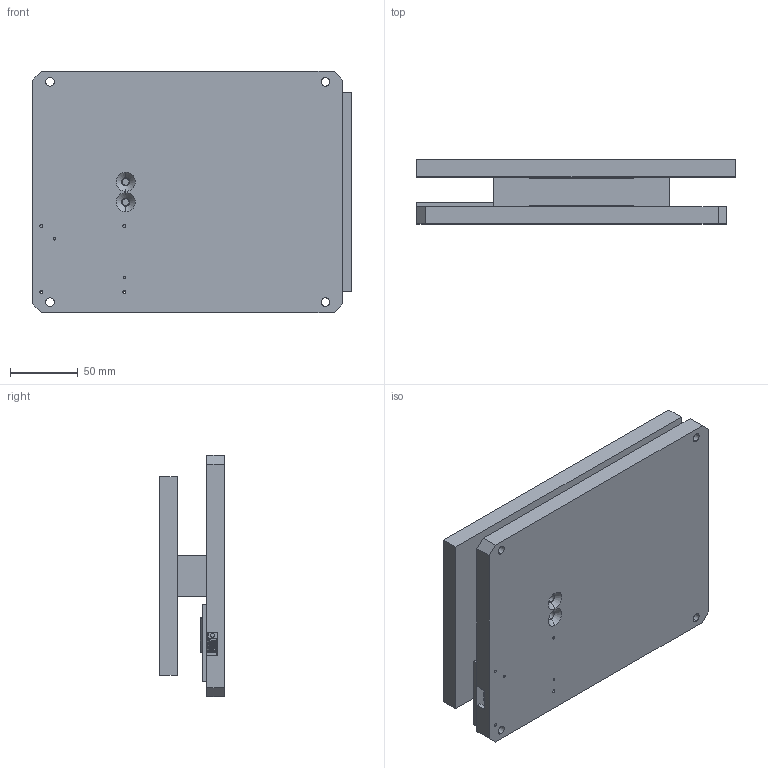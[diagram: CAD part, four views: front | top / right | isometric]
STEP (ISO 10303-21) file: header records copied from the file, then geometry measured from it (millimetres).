
FILE_DESCRIPTION (( 'STEP AP203' ), '1' );
FILE_NAME ('7x9-scale.STEP', '2020-04-14T03:29:24', ( '' ), ( '' ), 'SwSTEP 2.0', 'SolidWorks 2016', '' );
FILE_SCHEMA (( 'CONFIG_CONTROL_DESIGN' ));
Length unit declared in the file: inch
Products named in the file (9): 500-02474 RSP1 scale base, AM230, with recessed di-100 and load cell; di100-terminal-block; 500-02476 Cover Plate for DI-100,StockVUE Scale, Al, AM230; 500-02475 RSP1 scale bin holder, AM230, with recess for load cell; 7x9-scale; di100-pcb; rsp1_upto 50 kg; mini-b-female-connector-UX60SC-MB-5ST; di100-pcb-subassembly
Assembly tree (8 placements, depth 3):
  7x9-scale
    500-02474 RSP1 scale base, AM230, with recessed di-100 and load cell
    rsp1_upto 50 kg
    500-02476 Cover Plate for DI-100,StockVUE Scale, Al, AM230
    500-02475 RSP1 scale bin holder, AM230, with recess for load cell
    di100-pcb-subassembly
      di100-pcb
      di100-terminal-block
      mini-b-female-connector-UX60SC-MB-5ST
Bounding box: 234.96 x 47.4 x 177.8 mm (x, y, z)
Volume: 783409.2 mm3; surface area: 209391.5 mm2
Topology: 5 solids, 17 shells, 977 faces, 3061 edges, 2041 vertices
Faces by surface type: plane 561, cylinder 343, cone 46, bspline 17, torus 10
Entity records: 36043 total; most frequent: CARTESIAN_POINT 8306, ORIENTED_EDGE 5611, DIRECTION 5251, EDGE_CURVE 3061, LINE 2073, VECTOR 2073, VERTEX_POINT 2041, AXIS2_PLACEMENT_3D 1589
